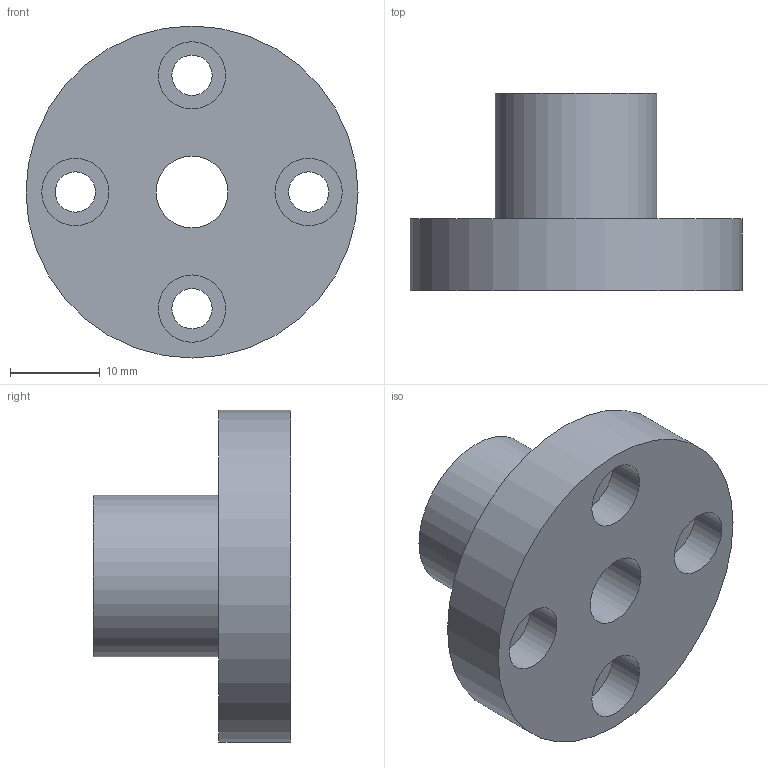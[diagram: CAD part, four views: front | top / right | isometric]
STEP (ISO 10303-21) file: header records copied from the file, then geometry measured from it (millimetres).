
FILE_DESCRIPTION(('FreeCAD Model'),'2;1');
FILE_NAME('Open CASCADE Shape Model','2021-05-04T13:22:29',('Author'),( ''),'Open CASCADE STEP processor 7.5','FreeCAD','Unknown');
FILE_SCHEMA(('AUTOMOTIVE_DESIGN { 1 0 10303 214 1 1 1 1 }'));
Length unit declared in the file: millimetre
Products named in the file (1): EXN 10x3 RH
Bounding box: 37 x 22 x 37 mm (x, y, z)
Volume: 10074.5 mm3; surface area: 4807.9 mm2
Topology: 1 solids, 1 shells, 18 faces, 39 edges, 28 vertices
Faces by surface type: cylinder 11, plane 7
Full cylindrical faces by diameter (mm): 4.5 x4, 7.5 x4, 8 x1, 18 x1, 37 x1
Entity records: 1233 total; most frequent: CARTESIAN_POINT 271, DIRECTION 156, ORIENTED_EDGE 78, PCURVE 78, DEFINITIONAL_REPRESENTATION 78, LINE 50, VECTOR 50, AXIS2_PLACEMENT_3D 47
